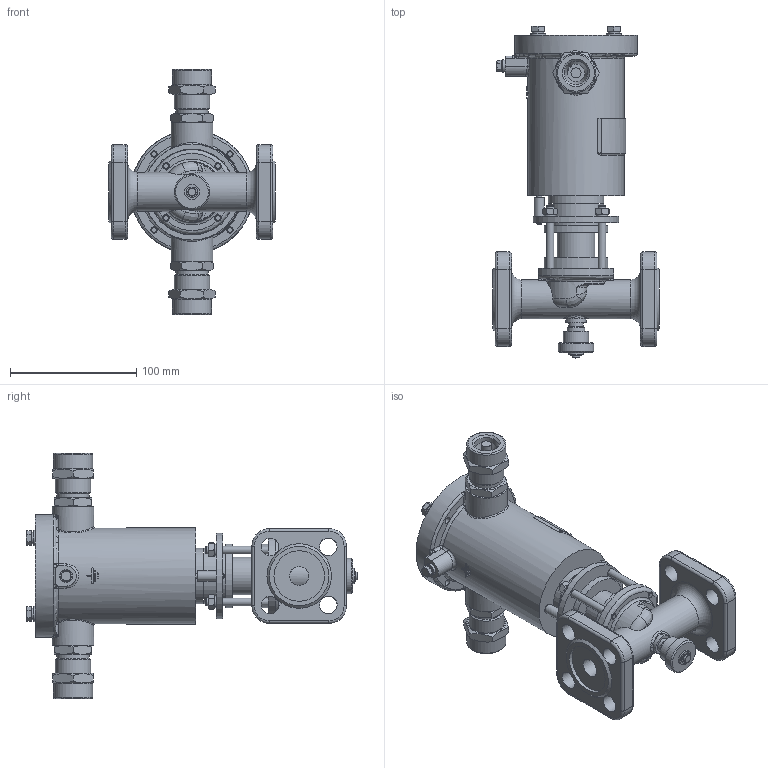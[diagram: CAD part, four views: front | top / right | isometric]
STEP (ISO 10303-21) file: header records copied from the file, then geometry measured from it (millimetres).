
FILE_DESCRIPTION(('STEP AP203'), '1');
FILE_NAME('ÑÅÍÑ DN15PN25-Â.stp', '2018-09-19T08:44:26', ('Îðëîâ Å.Â.'), ('ÎÎÎ ÍÏÏ Ñåíñîð'), 'ASCON STEP Converter 1.3', 'Kompas 3D', '');
FILE_SCHEMA(('CONFIG_CONTROL_DESIGN','SUPPORT_RESOURCE_SCHEMA'));
Length unit declared in the file: millimetre
Products named in the file (1): 49
Bounding box: 132 x 262.7 x 194 mm (x, y, z)
Volume: 660066.8 mm3; surface area: 216057.5 mm2
Topology: 3 solids, 18 shells, 1985 faces, 5257 edges, 3417 vertices
Faces by surface type: cylinder 1022, plane 737, cone 130, torus 46, bspline 34, extrusion 16
Full cylindrical faces by diameter (mm): 2.459 x4, 4 x8, 4.134 x1, 4.5 x2, 4.917 x4, 5 x2, 5.1 x1, 6 x16, 6.1 x1, 6.3 x2, 6.4 x1, 6.5 x11, 8 x7, 9 x1, 10 x3, 11 x1, 11.5 x1, 12 x5, 12.376 x1, 13 x2, 14 x9, 15 x4, 16 x1, 16.5 x1, 18.5 x1, 18.632 x2, 20 x3, 21 x1, 22 x2, 22.376 x2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
Entity records: 76120 total; most frequent: CARTESIAN_POINT 25624, DIRECTION 10988, ORIENTED_EDGE 10442, EDGE_CURVE 5221, AXIS2_PLACEMENT_3D 4240, VERTEX_POINT 3407, VECTOR 2508, LINE 2492
